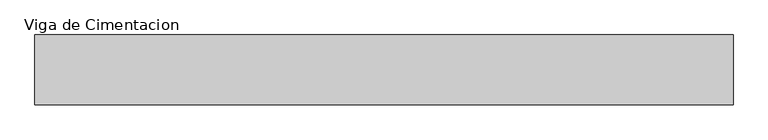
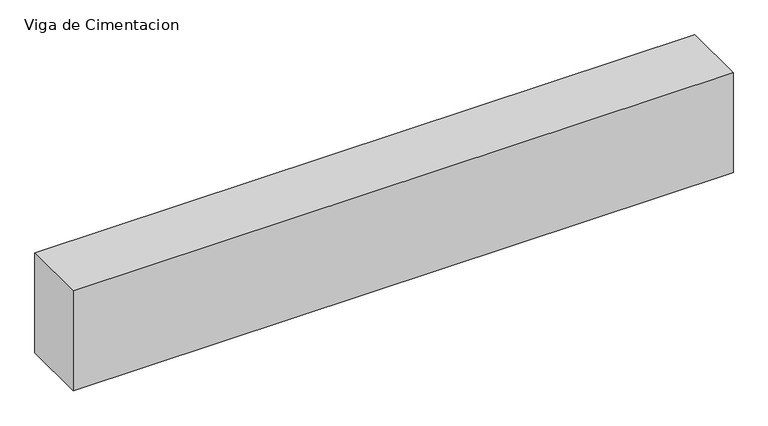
"""IFC4 building model written with IfcOpenShell, lengths in millimetres: beam geometry, Viga de Cimentacion : EVC_Viga de Cimentacion 25x50 cm."""

from ifc_helpers import new_model, si_unit, frame, origin, place, context, project, spatial, polyline, outline, extrude, source, transform, mapped, element, save


def viga_de_cimentacion_a1d79f26(model_context):
    return source(origin(), model_context, "Body", "SweptSolid", [
        extrude(outline(polyline([(1350.0, 125.0), (1350.0, -125.0), (-1150.0, -125.0), (-1150.0, 125.0), (1350.0, 125.0)])), frame((0.0, 0.0, -400.0), z_axis=(0.0, 0.0, 1.0), x_axis=(1.0, 0.0, 0.0)), (0.0, 0.0, 1.0), 400.0),
    ])


if __name__ == "__main__":
    model = new_model("IFC4")
    model_context = context("Model", 3, world=origin())
    ifc_project = project(units=[si_unit("LENGTHUNIT", "METRE", prefix="MILLI")], contexts=[model_context])
    site = spatial("IfcSite", under=ifc_project)
    building = spatial("IfcBuilding", under=site)
    placement = place(None, origin())
    viga_de_cimentacion_shape = viga_de_cimentacion_a1d79f26(model_context)
    element("IfcBeam", 1, ObjectType="Viga de Cimentacion : EVC_Viga de Cimentacion 25x50 cm", at=placement, inside=building, context=model_context, shape_type="MappedRepresentation", body=[
        mapped(viga_de_cimentacion_shape, transform((0.0, 0.0, 0.0), x_axis=(1.0, 0.0, 0.0), y_axis=(0.0, 1.0, 0.0), z_axis=(0.0, 0.0, 1.0))),
    ])
    save(model, "model.ifc")
